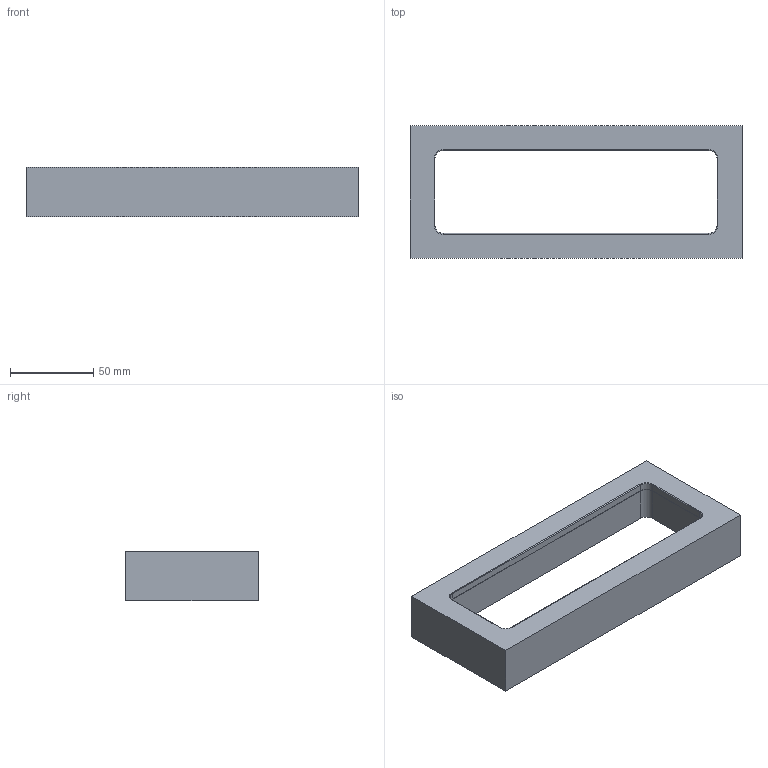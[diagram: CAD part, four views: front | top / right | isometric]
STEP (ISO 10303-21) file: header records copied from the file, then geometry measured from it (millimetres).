
FILE_DESCRIPTION(('STEP AP203'), '1');
FILE_NAME('ÒÏÏÔ1800.01.25.00.001 - Êîðïóñ óïîðà', '', ('UNSPECIFIED'), ('UNSPECIFIED'), 'C3D Converter', 'C3D Toolkit', '');
FILE_SCHEMA(('CONFIG_CONTROL_DESIGN'));
Length unit declared in the file: millimetre
Products named in the file (1): ТППФ1800.01.25.00.001
Bounding box: 200 x 80 x 30 mm (x, y, z)
Volume: 165709.6 mm3; surface area: 47426.8 mm2
Topology: 1 solids, 1 shells, 57 faces, 134 edges, 80 vertices
Faces by surface type: cylinder 22, plane 15, cone 12, torus 8
Full cylindrical faces by diameter (mm): 4.917 x6
Entity records: 1978 total; most frequent: DIRECTION 284, CARTESIAN_POINT 242, ORIENTED_EDGE 220, AXIS2_PLACEMENT_3D 116, EDGE_CURVE 110, EDGE_LOOP 78, VERTEX_POINT 74, COLOUR_RGB 58
